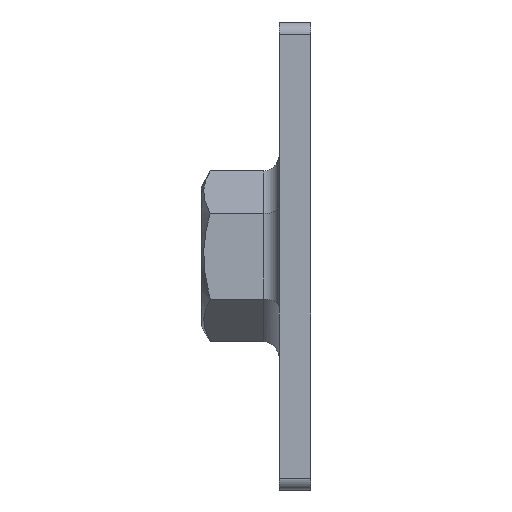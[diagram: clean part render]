
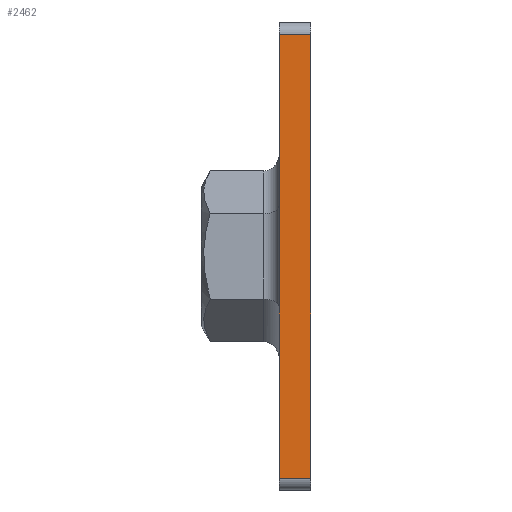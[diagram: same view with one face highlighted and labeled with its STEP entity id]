
A CAD part, left-side view. The second image highlights one B-rep face of the part: STEP entity #2462.
In plain terms, the highlighted planar face has unit normal (-1, 0, 0).
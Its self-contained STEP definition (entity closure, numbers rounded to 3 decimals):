
#507 = VECTOR ( 'NONE', #3219, 1000. ) ;
#1016 = VERTEX_POINT ( 'NONE', #4672 ) ;
#1727 = CARTESIAN_POINT ( 'NONE',  ( -30., 0., -28.5 ) ) ;
#2189 = PLANE ( 'NONE',  #4141 ) ;
#2215 = VECTOR ( 'NONE', #4872, 1000. ) ;
#2282 = CARTESIAN_POINT ( 'NONE',  ( -30., 4., 28.5 ) ) ;
#2457 = VERTEX_POINT ( 'NONE', #6303 ) ;
#2462 = ADVANCED_FACE ( 'NONE', ( #5878 ), #2189, .F. ) ;
#2618 = LINE ( 'NONE', #1727, #6285 ) ;
#2813 = EDGE_LOOP ( 'NONE', ( #8856, #6541, #8362, #8072 ) ) ;
#3219 = DIRECTION ( 'NONE',  ( 0., 0., 1. ) ) ;
#3398 = CARTESIAN_POINT ( 'NONE',  ( -30., 4., -28.5 ) ) ;
#3589 = DIRECTION ( 'NONE',  ( 1., 0., 0. ) ) ;
#4023 = LINE ( 'NONE', #4191, #2215 ) ;
#4086 = VERTEX_POINT ( 'NONE', #3398 ) ;
#4141 = AXIS2_PLACEMENT_3D ( 'NONE', #7010, #3589, #8421 ) ;
#4191 = CARTESIAN_POINT ( 'NONE',  ( -30., 4., -28.5 ) ) ;
#4579 = VERTEX_POINT ( 'NONE', #6442 ) ;
#4672 = CARTESIAN_POINT ( 'NONE',  ( -30., 0., -28.5 ) ) ;
#4701 = LINE ( 'NONE', #2282, #6334 ) ;
#4872 = DIRECTION ( 'NONE',  ( 0., -1., 0. ) ) ;
#4962 = EDGE_CURVE ( 'NONE', #2457, #4579, #4701, .T. ) ;
#5878 = FACE_OUTER_BOUND ( 'NONE', #2813, .T. ) ;
#6274 = EDGE_CURVE ( 'NONE', #4086, #2457, #7860, .T. ) ;
#6285 = VECTOR ( 'NONE', #6539, 1000. ) ;
#6303 = CARTESIAN_POINT ( 'NONE',  ( -30., 4., 28.5 ) ) ;
#6334 = VECTOR ( 'NONE', #7797, 1000. ) ;
#6442 = CARTESIAN_POINT ( 'NONE',  ( -30., 0., 28.5 ) ) ;
#6539 = DIRECTION ( 'NONE',  ( 0., 0., 1. ) ) ;
#6541 = ORIENTED_EDGE ( 'NONE', *, *, #4962, .F. ) ;
#6635 = CARTESIAN_POINT ( 'NONE',  ( -30., 4., -28.5 ) ) ;
#7010 = CARTESIAN_POINT ( 'NONE',  ( -30., 4., -28.5 ) ) ;
#7352 = EDGE_CURVE ( 'NONE', #4086, #1016, #4023, .T. ) ;
#7524 = EDGE_CURVE ( 'NONE', #1016, #4579, #2618, .T. ) ;
#7797 = DIRECTION ( 'NONE',  ( 0., -1., 0. ) ) ;
#7860 = LINE ( 'NONE', #6635, #507 ) ;
#8072 = ORIENTED_EDGE ( 'NONE', *, *, #7352, .T. ) ;
#8362 = ORIENTED_EDGE ( 'NONE', *, *, #6274, .F. ) ;
#8421 = DIRECTION ( 'NONE',  ( 0., 0., -1. ) ) ;
#8856 = ORIENTED_EDGE ( 'NONE', *, *, #7524, .T. ) ;
